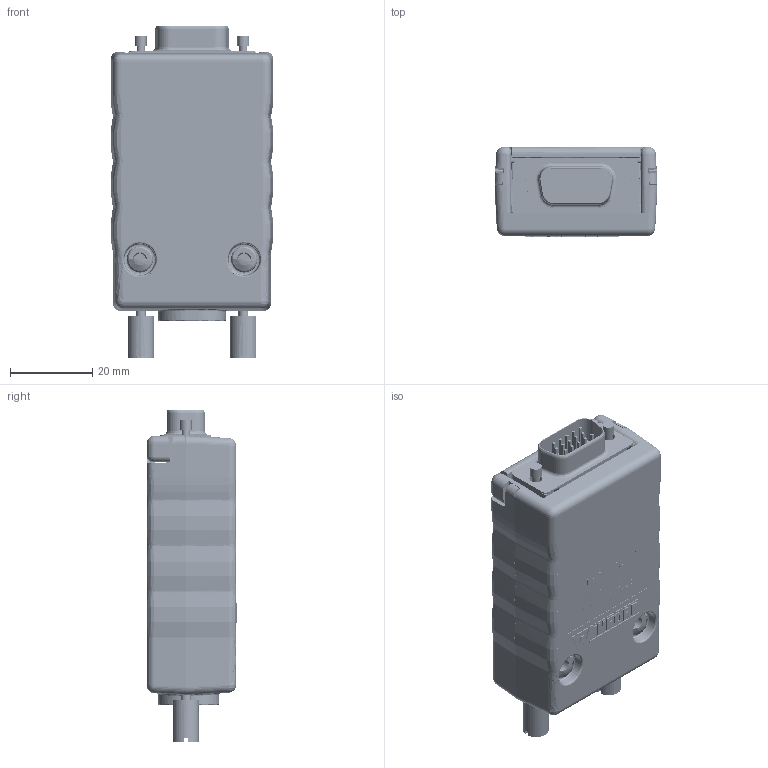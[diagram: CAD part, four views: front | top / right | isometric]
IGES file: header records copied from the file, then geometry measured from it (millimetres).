
Start section: SolidWorks IGES file using analytic representation for surfaces
Global section: file name: W:\end-user\products\brk\brke\brkegd15hd\brkegd15hdm\3dmodel\2024-09-18_rev_b\render\brkegd15hdm-t_rev_b.igs; native system: SolidWorks 2018; preprocessor: SolidWorks 2018; author: leviroy; date: 240918.160449; units: inch
Bounding box: 39.69 x 22 x 80.85 mm (x, y, z)
Surface area: 35922.2 mm2 (no closed solid volume)
Topology: 0 solids, 0 shells, 10220 faces, 81800 edges, 81759 vertices
Faces by surface type: bspline 7247, revolution 2973
